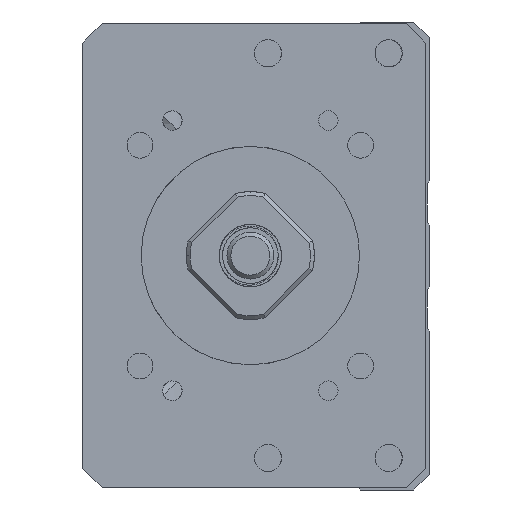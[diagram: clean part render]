
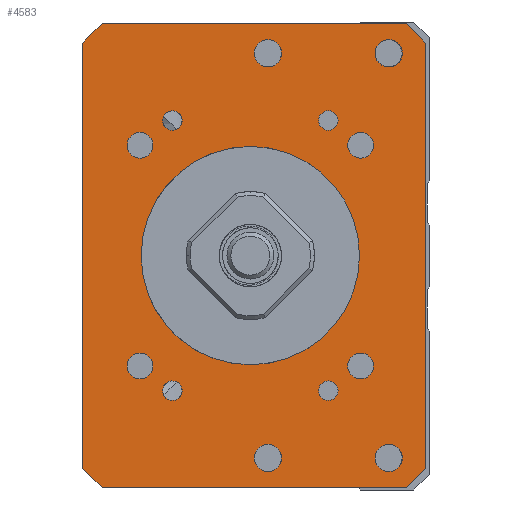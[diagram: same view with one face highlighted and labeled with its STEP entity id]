
A CAD part, left-side view. The second image highlights one B-rep face of the part: STEP entity #4583.
In plain terms, the highlighted planar face has unit normal (-1, 0, 0).
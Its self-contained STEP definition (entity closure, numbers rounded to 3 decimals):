
#3712=FACE_BOUND('',#6000,.T.);
#3713=FACE_BOUND('',#6001,.T.);
#3714=FACE_BOUND('',#6002,.T.);
#3715=FACE_BOUND('',#6003,.T.);
#3716=FACE_BOUND('',#6004,.T.);
#3717=FACE_BOUND('',#6005,.T.);
#3718=FACE_BOUND('',#6006,.T.);
#3719=FACE_BOUND('',#6007,.T.);
#3720=FACE_BOUND('',#6008,.T.);
#3721=FACE_BOUND('',#6009,.T.);
#3722=FACE_BOUND('',#6010,.T.);
#3723=FACE_BOUND('',#6011,.T.);
#3724=FACE_BOUND('',#6012,.T.);
#3725=FACE_BOUND('',#6013,.T.);
#4082=CIRCLE('',#13463,14.);
#4091=CIRCLE('',#13474,1.65);
#4092=CIRCLE('',#13475,1.65);
#4093=CIRCLE('',#13476,1.65);
#4094=CIRCLE('',#13477,1.65);
#4095=CIRCLE('',#13478,1.25);
#4096=CIRCLE('',#13479,1.75);
#4097=CIRCLE('',#13480,1.25);
#4098=CIRCLE('',#13481,1.75);
#4099=CIRCLE('',#13482,1.25);
#4100=CIRCLE('',#13483,1.75);
#4101=CIRCLE('',#13484,1.75);
#4102=CIRCLE('',#13485,1.25);
#4583=ADVANCED_FACE('',(#3712,#3713,#3714,#3715,#3716,#3717,#3718,#3719,
#3720,#3721,#3722,#3723,#3724,#3725),#5093,.F.);
#5093=PLANE('',#13486);
#6000=EDGE_LOOP('',(#7821));
#6001=EDGE_LOOP('',(#7822));
#6002=EDGE_LOOP('',(#7823));
#6003=EDGE_LOOP('',(#7824));
#6004=EDGE_LOOP('',(#7825));
#6005=EDGE_LOOP('',(#7826));
#6006=EDGE_LOOP('',(#7827));
#6007=EDGE_LOOP('',(#7828));
#6008=EDGE_LOOP('',(#7829));
#6009=EDGE_LOOP('',(#7830,#7831,#7832,#7833,#7834,#7835,#7836,#7837));
#6010=EDGE_LOOP('',(#7838));
#6011=EDGE_LOOP('',(#7839));
#6012=EDGE_LOOP('',(#7840));
#6013=EDGE_LOOP('',(#7841));
#7821=ORIENTED_EDGE('',*,*,#10763,.F.);
#7822=ORIENTED_EDGE('',*,*,#10764,.F.);
#7823=ORIENTED_EDGE('',*,*,#10765,.F.);
#7824=ORIENTED_EDGE('',*,*,#10766,.F.);
#7825=ORIENTED_EDGE('',*,*,#10767,.F.);
#7826=ORIENTED_EDGE('',*,*,#10768,.T.);
#7827=ORIENTED_EDGE('',*,*,#10769,.F.);
#7828=ORIENTED_EDGE('',*,*,#10770,.F.);
#7829=ORIENTED_EDGE('',*,*,#10771,.F.);
#7830=ORIENTED_EDGE('',*,*,#10760,.T.);
#7831=ORIENTED_EDGE('',*,*,#10772,.T.);
#7832=ORIENTED_EDGE('',*,*,#10773,.F.);
#7833=ORIENTED_EDGE('',*,*,#10774,.T.);
#7834=ORIENTED_EDGE('',*,*,#10775,.F.);
#7835=ORIENTED_EDGE('',*,*,#10776,.T.);
#7836=ORIENTED_EDGE('',*,*,#10777,.T.);
#7837=ORIENTED_EDGE('',*,*,#10778,.T.);
#7838=ORIENTED_EDGE('',*,*,#10779,.F.);
#7839=ORIENTED_EDGE('',*,*,#10780,.F.);
#7840=ORIENTED_EDGE('',*,*,#10781,.F.);
#7841=ORIENTED_EDGE('',*,*,#10740,.F.);
#9609=VERTEX_POINT('',#18393);
#9629=VERTEX_POINT('',#18453);
#9630=VERTEX_POINT('',#18455);
#9632=VERTEX_POINT('',#18461);
#9633=VERTEX_POINT('',#18463);
#9634=VERTEX_POINT('',#18465);
#9635=VERTEX_POINT('',#18467);
#9636=VERTEX_POINT('',#18469);
#9637=VERTEX_POINT('',#18471);
#9638=VERTEX_POINT('',#18473);
#9639=VERTEX_POINT('',#18475);
#9640=VERTEX_POINT('',#18477);
#9641=VERTEX_POINT('',#18479);
#9642=VERTEX_POINT('',#18481);
#9643=VERTEX_POINT('',#18483);
#9644=VERTEX_POINT('',#18485);
#9645=VERTEX_POINT('',#18487);
#9646=VERTEX_POINT('',#18489);
#9647=VERTEX_POINT('',#18492);
#9648=VERTEX_POINT('',#18494);
#9649=VERTEX_POINT('',#18496);
#10740=EDGE_CURVE('',#9609,#9609,#4082,.T.);
#10760=EDGE_CURVE('',#9630,#9629,#11922,.T.);
#10763=EDGE_CURVE('',#9632,#9632,#4091,.T.);
#10764=EDGE_CURVE('',#9633,#9633,#4092,.T.);
#10765=EDGE_CURVE('',#9634,#9634,#4093,.T.);
#10766=EDGE_CURVE('',#9635,#9635,#4094,.T.);
#10767=EDGE_CURVE('',#9636,#9636,#4095,.T.);
#10768=EDGE_CURVE('',#9637,#9637,#4096,.T.);
#10769=EDGE_CURVE('',#9638,#9638,#4097,.T.);
#10770=EDGE_CURVE('',#9639,#9639,#4098,.T.);
#10771=EDGE_CURVE('',#9640,#9640,#4099,.T.);
#10772=EDGE_CURVE('',#9629,#9641,#11924,.T.);
#10773=EDGE_CURVE('',#9642,#9641,#11925,.T.);
#10774=EDGE_CURVE('',#9642,#9643,#11926,.T.);
#10775=EDGE_CURVE('',#9644,#9643,#11927,.T.);
#10776=EDGE_CURVE('',#9644,#9645,#11928,.T.);
#10777=EDGE_CURVE('',#9645,#9646,#11929,.T.);
#10778=EDGE_CURVE('',#9646,#9630,#11930,.T.);
#10779=EDGE_CURVE('',#9647,#9647,#4100,.T.);
#10780=EDGE_CURVE('',#9648,#9648,#4101,.T.);
#10781=EDGE_CURVE('',#9649,#9649,#4102,.T.);
#11922=LINE('',#18454,#12739);
#11924=LINE('',#18478,#12741);
#11925=LINE('',#18480,#12742);
#11926=LINE('',#18482,#12743);
#11927=LINE('',#18484,#12744);
#11928=LINE('',#18486,#12745);
#11929=LINE('',#18488,#12746);
#11930=LINE('',#18490,#12747);
#12739=VECTOR('',#15324,1.);
#12741=VECTOR('',#15348,1.);
#12742=VECTOR('',#15349,1.);
#12743=VECTOR('',#15350,1.);
#12744=VECTOR('',#15351,1.);
#12745=VECTOR('',#15352,1.);
#12746=VECTOR('',#15353,1.);
#12747=VECTOR('',#15354,1.);
#13463=AXIS2_PLACEMENT_3D('',#18392,#15298,#15299);
#13474=AXIS2_PLACEMENT_3D('',#18460,#15330,#15331);
#13475=AXIS2_PLACEMENT_3D('',#18462,#15332,#15333);
#13476=AXIS2_PLACEMENT_3D('',#18464,#15334,#15335);
#13477=AXIS2_PLACEMENT_3D('',#18466,#15336,#15337);
#13478=AXIS2_PLACEMENT_3D('',#18468,#15338,#15339);
#13479=AXIS2_PLACEMENT_3D('',#18470,#15340,#15341);
#13480=AXIS2_PLACEMENT_3D('',#18472,#15342,#15343);
#13481=AXIS2_PLACEMENT_3D('',#18474,#15344,#15345);
#13482=AXIS2_PLACEMENT_3D('',#18476,#15346,#15347);
#13483=AXIS2_PLACEMENT_3D('',#18491,#15355,#15356);
#13484=AXIS2_PLACEMENT_3D('',#18493,#15357,#15358);
#13485=AXIS2_PLACEMENT_3D('',#18495,#15359,#15360);
#13486=AXIS2_PLACEMENT_3D('',#18497,#15361,#15362);
#15298=DIRECTION('',(-1.,0.,0.));
#15299=DIRECTION('',(0.,1.,0.));
#15324=DIRECTION('',(0.,0.,-1.));
#15330=DIRECTION('',(-1.,0.,0.));
#15331=DIRECTION('',(0.,0.,1.));
#15332=DIRECTION('',(-1.,0.,0.));
#15333=DIRECTION('',(0.,0.,1.));
#15334=DIRECTION('',(-1.,0.,0.));
#15335=DIRECTION('',(0.,0.,1.));
#15336=DIRECTION('',(-1.,0.,0.));
#15337=DIRECTION('',(0.,0.,1.));
#15338=DIRECTION('',(-1.,0.,0.));
#15339=DIRECTION('',(0.,1.,0.));
#15340=DIRECTION('',(1.,0.,0.));
#15341=DIRECTION('',(0.,0.,1.));
#15342=DIRECTION('',(-1.,0.,0.));
#15343=DIRECTION('',(0.,1.,0.));
#15344=DIRECTION('',(-1.,0.,0.));
#15345=DIRECTION('',(0.,0.,1.));
#15346=DIRECTION('',(-1.,0.,0.));
#15347=DIRECTION('',(0.,1.,0.));
#15348=DIRECTION('',(0.,-0.707,-0.707));
#15349=DIRECTION('',(0.,1.,0.));
#15350=DIRECTION('',(0.,-0.707,0.707));
#15351=DIRECTION('',(0.,0.,-1.));
#15352=DIRECTION('',(0.,0.707,0.707));
#15353=DIRECTION('',(0.,1.,0.));
#15354=DIRECTION('',(0.,0.707,-0.707));
#15355=DIRECTION('',(-1.,0.,0.));
#15356=DIRECTION('',(0.,0.,1.));
#15357=DIRECTION('',(-1.,0.,0.));
#15358=DIRECTION('',(0.,0.,1.));
#15359=DIRECTION('',(-1.,0.,0.));
#15360=DIRECTION('',(0.,1.,0.));
#15361=DIRECTION('',(1.,0.,0.));
#15362=DIRECTION('',(0.,1.,0.));
#18392=CARTESIAN_POINT('',(-211.,0.,-500.));
#18393=CARTESIAN_POINT('',(-211.,14.,-500.));
#18453=CARTESIAN_POINT('',(-211.,21.499,-527.25));
#18454=CARTESIAN_POINT('',(-211.,21.499,-470.25));
#18455=CARTESIAN_POINT('',(-211.,21.499,-472.75));
#18460=CARTESIAN_POINT('',(-211.,14.142,-485.858));
#18461=CARTESIAN_POINT('',(-211.,14.142,-484.208));
#18462=CARTESIAN_POINT('',(-211.,-14.142,-485.858));
#18463=CARTESIAN_POINT('',(-211.,-14.142,-484.208));
#18464=CARTESIAN_POINT('',(-211.,14.142,-514.142));
#18465=CARTESIAN_POINT('',(-211.,14.142,-512.492));
#18466=CARTESIAN_POINT('',(-211.,-14.142,-514.142));
#18467=CARTESIAN_POINT('',(-211.,-14.142,-512.492));
#18468=CARTESIAN_POINT('',(-211.,-10.,-517.321));
#18469=CARTESIAN_POINT('',(-211.,-8.75,-517.321));
#18470=CARTESIAN_POINT('',(-211.,-2.25,-525.936));
#18471=CARTESIAN_POINT('',(-211.,-2.25,-524.186));
#18472=CARTESIAN_POINT('',(-211.,10.,-482.679));
#18473=CARTESIAN_POINT('',(-211.,11.25,-482.679));
#18474=CARTESIAN_POINT('',(-211.,-2.25,-474.064));
#18475=CARTESIAN_POINT('',(-211.,-2.25,-472.314));
#18476=CARTESIAN_POINT('',(-211.,10.,-517.321));
#18477=CARTESIAN_POINT('',(-211.,11.25,-517.321));
#18478=CARTESIAN_POINT('',(-211.,18.999,-529.75));
#18479=CARTESIAN_POINT('',(-211.,18.999,-529.75));
#18480=CARTESIAN_POINT('',(-211.,-22.501,-529.75));
#18481=CARTESIAN_POINT('',(-211.,-20.001,-529.75));
#18482=CARTESIAN_POINT('',(-211.,-22.501,-527.25));
#18483=CARTESIAN_POINT('',(-211.,-22.501,-527.25));
#18484=CARTESIAN_POINT('',(-211.,-22.501,-470.25));
#18485=CARTESIAN_POINT('',(-211.,-22.501,-472.75));
#18486=CARTESIAN_POINT('',(-211.,-22.501,-472.75));
#18487=CARTESIAN_POINT('',(-211.,-20.001,-470.25));
#18488=CARTESIAN_POINT('',(-211.,-22.501,-470.25));
#18489=CARTESIAN_POINT('',(-211.,18.999,-470.25));
#18490=CARTESIAN_POINT('',(-211.,18.999,-470.25));
#18491=CARTESIAN_POINT('',(-211.,-17.75,-474.064));
#18492=CARTESIAN_POINT('',(-211.,-17.75,-472.314));
#18493=CARTESIAN_POINT('',(-211.,-17.75,-525.936));
#18494=CARTESIAN_POINT('',(-211.,-17.75,-524.186));
#18495=CARTESIAN_POINT('',(-211.,-10.,-482.679));
#18496=CARTESIAN_POINT('',(-211.,-8.75,-482.679));
#18497=CARTESIAN_POINT('',(-211.,-22.501,-470.25));
